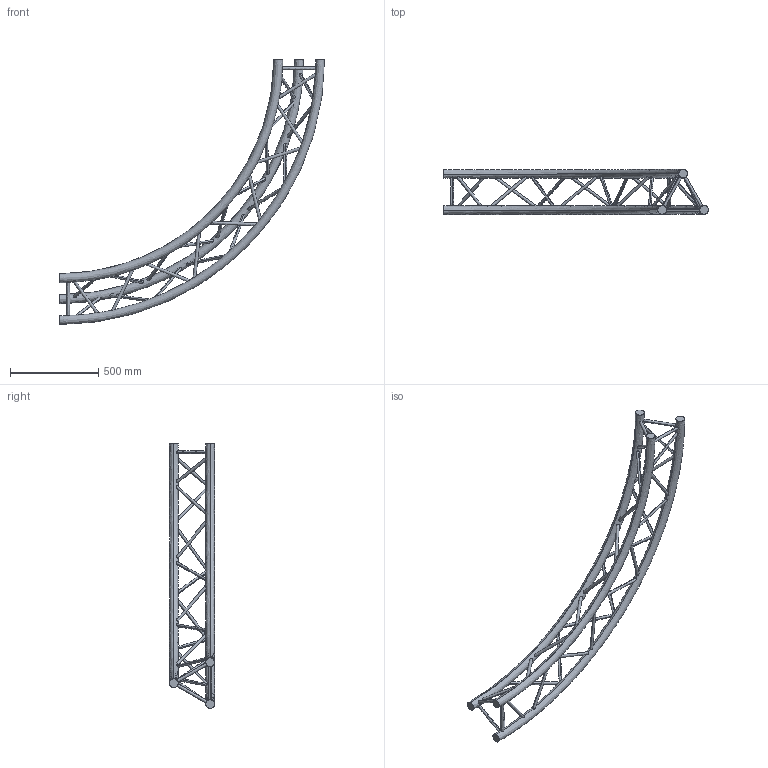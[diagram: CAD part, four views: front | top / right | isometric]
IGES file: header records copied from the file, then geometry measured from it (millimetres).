
Start section: SolidWorks IGES file using analytic representation for surfaces
Global section: file name: K:\BIBLIO\asd_biblio\SX290\Cercles\SXC29300PH\SXC29300PH.IGS; native system: SolidWorks 2009; preprocessor: SolidWorks 2009; author: des3; date: 091021.102419; units: millimetre
Bounding box: 1500 x 255.25 x 1500 mm (x, y, z)
Surface area: 1402624.3 mm2 (no closed solid volume)
Topology: 0 solids, 0 shells, 78 faces, 5335 edges, 5335 vertices
Faces by surface type: revolution 66, bspline 12
